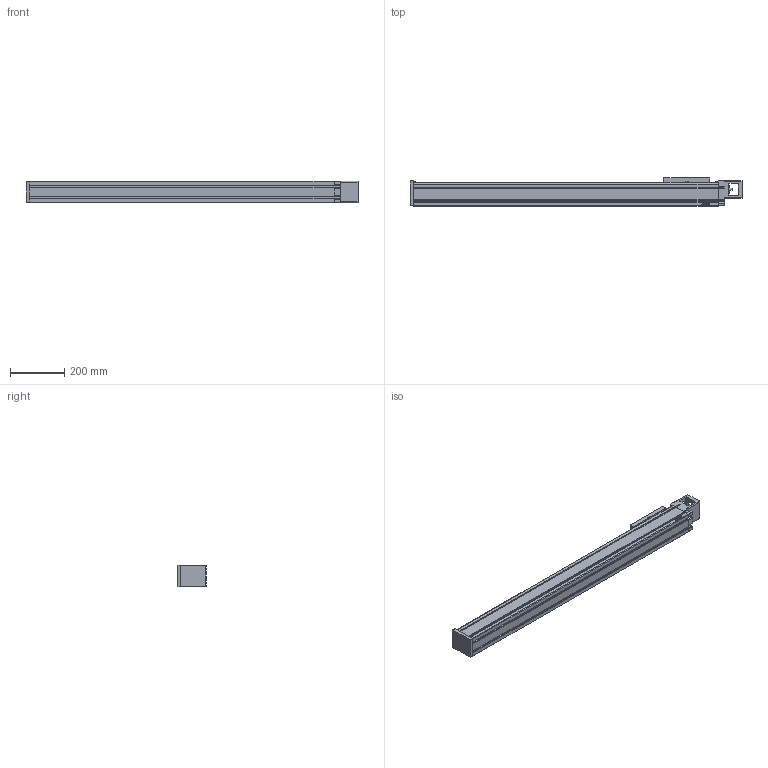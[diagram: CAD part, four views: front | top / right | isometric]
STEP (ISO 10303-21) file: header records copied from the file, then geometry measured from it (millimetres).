
FILE_DESCRIPTION(/* description */ (''),/* implementation_level */ '2;1');
FILE_NAME(/* name */ 'D:\混合母檔20191031\混和母檔\混和母檔\bin\Debug\Download\3D\KU80-20C-900AF0\KU80-20C-900AF0.stp',/* time_stamp */ '2019-11-04T17:28:28+08:00',/* author */ ('user'),/* organization */ (''),/* preprocessor_version */ 'ST-DEVELOPER v16.13',/* originating_system */ 'Autodesk Inventor 2018',/* authorisation */ '');
FILE_SCHEMA (('AUTOMOTIVE_DESIGN { 1 0 10303 214 3 1 1 }'));
Length unit declared in the file: millimetre
Products named in the file (3): KU80-20C-900AF0; KU80-F0-BP; KU80-SL
Assembly tree (2 placements, depth 2):
  KU80-20C-900AF0
    KU80-F0-BP
    KU80-SL
Bounding box: 1220 x 103 x 80 mm (x, y, z)
Volume: 7684917.8 mm3; surface area: 649803.9 mm2
Topology: 2 solids, 10 shells, 862 faces, 2315 edges, 1508 vertices
Faces by surface type: plane 509, bspline 136, cylinder 104, cone 81, torus 28, sphere 4
Full cylindrical faces by diameter (mm): 2.459 x4, 2.729 x4, 3 x4, 3.242 x4, 3.5 x4, 4.134 x16, 5 x4, 5.5 x8, 5.6 x2, 8 x1, 8.5 x4, 12 x1, 46.5 x1
Entity records: 27990 total; most frequent: CARTESIAN_POINT 7413, ORIENTED_EDGE 4362, DIRECTION 3790, EDGE_CURVE 2181, VERTEX_POINT 1469, LINE 1298, VECTOR 1298, AXIS2_PLACEMENT_3D 1246
